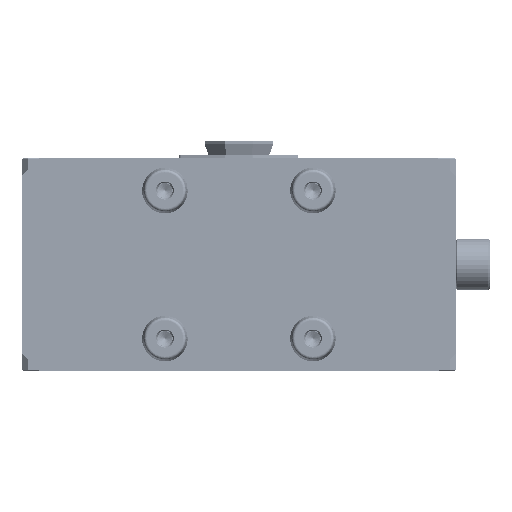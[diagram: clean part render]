
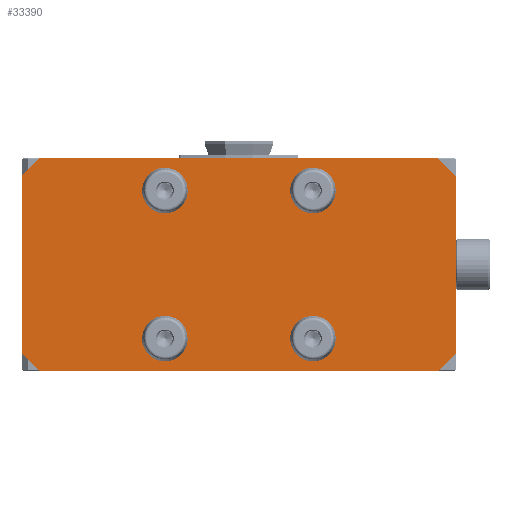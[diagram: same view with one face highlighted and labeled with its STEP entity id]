
A CAD part, front view. The second image highlights one B-rep face of the part: STEP entity #33390.
In plain terms, the highlighted planar face has unit normal (0, -1, 0).
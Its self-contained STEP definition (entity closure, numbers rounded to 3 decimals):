
#55 = DIRECTION ( 'NONE',  ( 0., 0., -1. ) ) ;
#387 = DIRECTION ( 'NONE',  ( 0., 0., -1. ) ) ;
#407 = DIRECTION ( 'NONE',  ( 0., -1., 0. ) ) ;
#581 = CARTESIAN_POINT ( 'NONE',  ( 26., -25., 32.008 ) ) ;
#1139 = AXIS2_PLACEMENT_3D ( 'NONE', #7708, #45037, #28744 ) ;
#1408 = VERTEX_POINT ( 'NONE', #45065 ) ;
#2927 = LINE ( 'NONE', #35524, #11138 ) ;
#3545 = CARTESIAN_POINT ( 'NONE',  ( -26., -25., 19.992 ) ) ;
#4275 = CARTESIAN_POINT ( 'NONE',  ( 26., -25., -32.008 ) ) ;
#4804 = DIRECTION ( 'NONE',  ( 0., 0., -1. ) ) ;
#4830 = EDGE_LOOP ( 'NONE', ( #35721, #26627, #56784, #34200, #11833, #70750, #66226, #49036 ) ) ;
#4983 = VERTEX_POINT ( 'NONE', #51757 ) ;
#5590 = AXIS2_PLACEMENT_3D ( 'NONE', #10202, #32313, #55 ) ;
#5965 = VERTEX_POINT ( 'NONE', #3545 ) ;
#6522 = CARTESIAN_POINT ( 'NONE',  ( -26., -25., 32.008 ) ) ;
#6725 = CARTESIAN_POINT ( 'NONE',  ( -69.85, -25., 37.5 ) ) ;
#7464 = ORIENTED_EDGE ( 'NONE', *, *, #39344, .F. ) ;
#7552 = AXIS2_PLACEMENT_3D ( 'NONE', #42391, #64491, #14863 ) ;
#7625 = DIRECTION ( 'NONE',  ( 0.707, 0., 0.707 ) ) ;
#7708 = CARTESIAN_POINT ( 'NONE',  ( -26., -25., 26. ) ) ;
#8160 = CARTESIAN_POINT ( 'NONE',  ( 26., -25., -19.992 ) ) ;
#10202 = CARTESIAN_POINT ( 'NONE',  ( 26., -25., -26. ) ) ;
#10648 = CARTESIAN_POINT ( 'NONE',  ( 76.2, -25., -31.15 ) ) ;
#10729 = VERTEX_POINT ( 'NONE', #6725 ) ;
#11138 = VECTOR ( 'NONE', #7625, 1000. ) ;
#11255 = DIRECTION ( 'NONE',  ( 0., 0., -1. ) ) ;
#11833 = ORIENTED_EDGE ( 'NONE', *, *, #47764, .F. ) ;
#13387 = LINE ( 'NONE', #56866, #70039 ) ;
#13484 = AXIS2_PLACEMENT_3D ( 'NONE', #60093, #59038, #69899 ) ;
#13556 = VECTOR ( 'NONE', #26063, 1000. ) ;
#13900 = CARTESIAN_POINT ( 'NONE',  ( -26., -25., -19.992 ) ) ;
#14489 = AXIS2_PLACEMENT_3D ( 'NONE', #14994, #54450, #4804 ) ;
#14863 = DIRECTION ( 'NONE',  ( 0., 0., -1. ) ) ;
#14994 = CARTESIAN_POINT ( 'NONE',  ( -26., -25., -26. ) ) ;
#16687 = PLANE ( 'NONE',  #31984 ) ;
#16781 = EDGE_CURVE ( 'NONE', #70839, #10729, #2927, .T. ) ;
#17229 = EDGE_LOOP ( 'NONE', ( #7464, #41635 ) ) ;
#17723 = EDGE_CURVE ( 'NONE', #10729, #50883, #25761, .T. ) ;
#17743 = DIRECTION ( 'NONE',  ( 0., -1., 0. ) ) ;
#18046 = EDGE_CURVE ( 'NONE', #25193, #64728, #56398, .T. ) ;
#18494 = EDGE_CURVE ( 'NONE', #46954, #4983, #40381, .T. ) ;
#19356 = VERTEX_POINT ( 'NONE', #581 ) ;
#19527 = DIRECTION ( 'NONE',  ( 0., 0., 1. ) ) ;
#21216 = ORIENTED_EDGE ( 'NONE', *, *, #22215, .F. ) ;
#22215 = EDGE_CURVE ( 'NONE', #69274, #54968, #46093, .T. ) ;
#22269 = CARTESIAN_POINT ( 'NONE',  ( -76.2, -25., -31.15 ) ) ;
#22463 = DIRECTION ( 'NONE',  ( 0., 0., -1. ) ) ;
#23037 = CARTESIAN_POINT ( 'NONE',  ( -76.2, -25., -31.15 ) ) ;
#23192 = CARTESIAN_POINT ( 'NONE',  ( -26., -25., 26. ) ) ;
#24534 = ORIENTED_EDGE ( 'NONE', *, *, #63989, .F. ) ;
#25193 = VERTEX_POINT ( 'NONE', #54386 ) ;
#25761 = LINE ( 'NONE', #64898, #48973 ) ;
#26063 = DIRECTION ( 'NONE',  ( 0., 0., -1. ) ) ;
#26318 = ORIENTED_EDGE ( 'NONE', *, *, #51114, .F. ) ;
#26466 = AXIS2_PLACEMENT_3D ( 'NONE', #29359, #34452, #39548 ) ;
#26627 = ORIENTED_EDGE ( 'NONE', *, *, #65718, .F. ) ;
#27212 = FACE_BOUND ( 'NONE', #48500, .T. ) ;
#27919 = FACE_BOUND ( 'NONE', #48991, .T. ) ;
#28744 = DIRECTION ( 'NONE',  ( 0., 0., -1. ) ) ;
#29142 = CARTESIAN_POINT ( 'NONE',  ( -69.85, -25., -37.5 ) ) ;
#29359 = CARTESIAN_POINT ( 'NONE',  ( 26., -25., 26. ) ) ;
#30228 = CARTESIAN_POINT ( 'NONE',  ( 76.2, -25., 31.15 ) ) ;
#31805 = ORIENTED_EDGE ( 'NONE', *, *, #62366, .F. ) ;
#31966 = EDGE_CURVE ( 'NONE', #5965, #49501, #41229, .T. ) ;
#31983 = ORIENTED_EDGE ( 'NONE', *, *, #44028, .F. ) ;
#31984 = AXIS2_PLACEMENT_3D ( 'NONE', #54743, #60891, #11255 ) ;
#32313 = DIRECTION ( 'NONE',  ( 0., -1., 0. ) ) ;
#33390 = ADVANCED_FACE ( 'NONE', ( #27919, #44574, #44210, #27212, #66307 ), #16687, .T. ) ;
#34200 = ORIENTED_EDGE ( 'NONE', *, *, #49865, .F. ) ;
#34452 = DIRECTION ( 'NONE',  ( 0., -1., 0. ) ) ;
#35524 = CARTESIAN_POINT ( 'NONE',  ( -69.85, -25., 37.5 ) ) ;
#35721 = ORIENTED_EDGE ( 'NONE', *, *, #18046, .F. ) ;
#36670 = CIRCLE ( 'NONE', #13484, 6.008 ) ;
#36866 = VECTOR ( 'NONE', #50146, 1000. ) ;
#36922 = CIRCLE ( 'NONE', #26466, 6.008 ) ;
#37523 = VECTOR ( 'NONE', #45430, 1000. ) ;
#38252 = EDGE_CURVE ( 'NONE', #19356, #1408, #47252, .T. ) ;
#39344 = EDGE_CURVE ( 'NONE', #1408, #19356, #36922, .T. ) ;
#39548 = DIRECTION ( 'NONE',  ( 0., 0., -1. ) ) ;
#40381 = LINE ( 'NONE', #45791, #37523 ) ;
#41229 = CIRCLE ( 'NONE', #48187, 6.008 ) ;
#41635 = ORIENTED_EDGE ( 'NONE', *, *, #38252, .F. ) ;
#41680 = CARTESIAN_POINT ( 'NONE',  ( 69.85, -25., 37.5 ) ) ;
#42391 = CARTESIAN_POINT ( 'NONE',  ( 26., -25., -26. ) ) ;
#42573 = VERTEX_POINT ( 'NONE', #55715 ) ;
#42799 = DIRECTION ( 'NONE',  ( 1., 0., 0. ) ) ;
#43436 = LINE ( 'NONE', #54325, #13556 ) ;
#44028 = EDGE_CURVE ( 'NONE', #49501, #5965, #49723, .T. ) ;
#44210 = FACE_BOUND ( 'NONE', #50249, .T. ) ;
#44574 = FACE_BOUND ( 'NONE', #17229, .T. ) ;
#45037 = DIRECTION ( 'NONE',  ( 0., -1., 0. ) ) ;
#45065 = CARTESIAN_POINT ( 'NONE',  ( 26., -25., 19.992 ) ) ;
#45430 = DIRECTION ( 'NONE',  ( -0.707, 0., -0.707 ) ) ;
#45620 = VERTEX_POINT ( 'NONE', #58791 ) ;
#45791 = CARTESIAN_POINT ( 'NONE',  ( 69.85, -25., -37.5 ) ) ;
#46093 = CIRCLE ( 'NONE', #5590, 6.008 ) ;
#46954 = VERTEX_POINT ( 'NONE', #10648 ) ;
#47252 = CIRCLE ( 'NONE', #68095, 6.008 ) ;
#47764 = EDGE_CURVE ( 'NONE', #50883, #45620, #62847, .T. ) ;
#48030 = CARTESIAN_POINT ( 'NONE',  ( -76.2, -25., 31.15 ) ) ;
#48187 = AXIS2_PLACEMENT_3D ( 'NONE', #23192, #407, #22463 ) ;
#48500 = EDGE_LOOP ( 'NONE', ( #64088, #31983 ) ) ;
#48973 = VECTOR ( 'NONE', #42799, 1000. ) ;
#48991 = EDGE_LOOP ( 'NONE', ( #24534, #31805 ) ) ;
#49036 = ORIENTED_EDGE ( 'NONE', *, *, #51613, .F. ) ;
#49501 = VERTEX_POINT ( 'NONE', #6522 ) ;
#49723 = CIRCLE ( 'NONE', #1139, 6.008 ) ;
#49865 = EDGE_CURVE ( 'NONE', #45620, #46954, #43436, .T. ) ;
#50146 = DIRECTION ( 'NONE',  ( -1., 0., 0. ) ) ;
#50249 = EDGE_LOOP ( 'NONE', ( #21216, #26318 ) ) ;
#50883 = VERTEX_POINT ( 'NONE', #41680 ) ;
#51114 = EDGE_CURVE ( 'NONE', #54968, #69274, #71165, .T. ) ;
#51613 = EDGE_CURVE ( 'NONE', #64728, #70839, #13387, .T. ) ;
#51757 = CARTESIAN_POINT ( 'NONE',  ( 69.85, -25., -37.5 ) ) ;
#52686 = DIRECTION ( 'NONE',  ( 0.707, 0., -0.707 ) ) ;
#54325 = CARTESIAN_POINT ( 'NONE',  ( 76.2, -25., -31.15 ) ) ;
#54386 = CARTESIAN_POINT ( 'NONE',  ( -69.85, -25., -37.5 ) ) ;
#54450 = DIRECTION ( 'NONE',  ( 0., -1., 0. ) ) ;
#54743 = CARTESIAN_POINT ( 'NONE',  ( 0., -25., 0. ) ) ;
#54968 = VERTEX_POINT ( 'NONE', #8160 ) ;
#55715 = CARTESIAN_POINT ( 'NONE',  ( -26., -25., -32.008 ) ) ;
#56398 = LINE ( 'NONE', #23037, #69884 ) ;
#56784 = ORIENTED_EDGE ( 'NONE', *, *, #18494, .F. ) ;
#56866 = CARTESIAN_POINT ( 'NONE',  ( -76.2, -25., 31.15 ) ) ;
#58791 = CARTESIAN_POINT ( 'NONE',  ( 76.2, -25., 31.15 ) ) ;
#59038 = DIRECTION ( 'NONE',  ( 0., -1., 0. ) ) ;
#60093 = CARTESIAN_POINT ( 'NONE',  ( -26., -25., -26. ) ) ;
#60888 = CARTESIAN_POINT ( 'NONE',  ( 26., -25., 26. ) ) ;
#60891 = DIRECTION ( 'NONE',  ( 0., -1., 0. ) ) ;
#61955 = CIRCLE ( 'NONE', #14489, 6.008 ) ;
#62021 = VECTOR ( 'NONE', #52686, 1000. ) ;
#62366 = EDGE_CURVE ( 'NONE', #70230, #42573, #61955, .T. ) ;
#62847 = LINE ( 'NONE', #30228, #62021 ) ;
#63989 = EDGE_CURVE ( 'NONE', #42573, #70230, #36670, .T. ) ;
#64088 = ORIENTED_EDGE ( 'NONE', *, *, #31966, .F. ) ;
#64491 = DIRECTION ( 'NONE',  ( 0., -1., 0. ) ) ;
#64728 = VERTEX_POINT ( 'NONE', #22269 ) ;
#64898 = CARTESIAN_POINT ( 'NONE',  ( 69.85, -25., 37.5 ) ) ;
#65718 = EDGE_CURVE ( 'NONE', #4983, #25193, #66453, .T. ) ;
#66226 = ORIENTED_EDGE ( 'NONE', *, *, #16781, .F. ) ;
#66307 = FACE_OUTER_BOUND ( 'NONE', #4830, .T. ) ;
#66453 = LINE ( 'NONE', #29142, #36866 ) ;
#67980 = DIRECTION ( 'NONE',  ( -0.707, 0., 0.707 ) ) ;
#68095 = AXIS2_PLACEMENT_3D ( 'NONE', #60888, #17743, #387 ) ;
#69274 = VERTEX_POINT ( 'NONE', #4275 ) ;
#69884 = VECTOR ( 'NONE', #67980, 1000. ) ;
#69899 = DIRECTION ( 'NONE',  ( 0., 0., -1. ) ) ;
#70039 = VECTOR ( 'NONE', #19527, 1000. ) ;
#70230 = VERTEX_POINT ( 'NONE', #13900 ) ;
#70750 = ORIENTED_EDGE ( 'NONE', *, *, #17723, .F. ) ;
#70839 = VERTEX_POINT ( 'NONE', #48030 ) ;
#71165 = CIRCLE ( 'NONE', #7552, 6.008 ) ;
